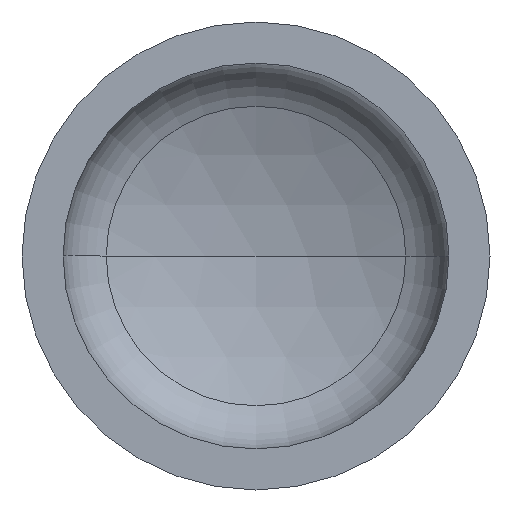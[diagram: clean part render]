
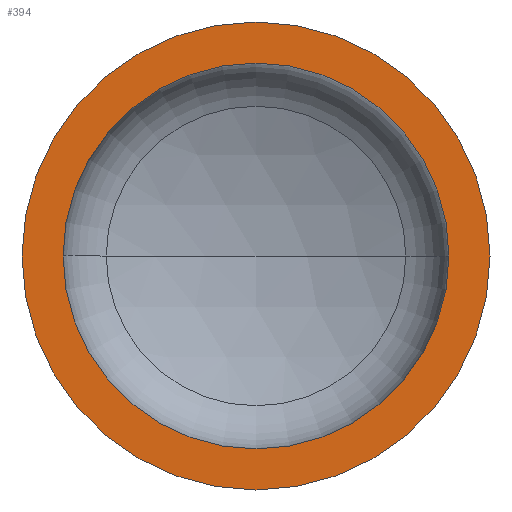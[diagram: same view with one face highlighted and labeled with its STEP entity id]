
A CAD part, front view. The second image highlights one B-rep face of the part: STEP entity #394.
In plain terms, the highlighted planar face has unit normal (0, -1, 0).
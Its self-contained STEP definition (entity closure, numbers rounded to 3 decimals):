
#16 = VERTEX_POINT ( 'NONE', #287 ) ;
#17 = EDGE_LOOP ( 'NONE', ( #119, #87 ) ) ;
#59 = AXIS2_PLACEMENT_3D ( 'NONE', #200, #309, #308 ) ;
#66 = AXIS2_PLACEMENT_3D ( 'NONE', #304, #303, #302 ) ;
#67 = ORIENTED_EDGE ( 'NONE', *, *, #399, .F. ) ;
#75 = EDGE_LOOP ( 'NONE', ( #245, #67 ) ) ;
#79 = AXIS2_PLACEMENT_3D ( 'NONE', #230, #227, #226 ) ;
#81 = EDGE_CURVE ( 'NONE', #16, #138, #169, .T. ) ;
#87 = ORIENTED_EDGE ( 'NONE', *, *, #97, .T. ) ;
#96 = CARTESIAN_POINT ( 'NONE',  ( -650., 0., 0. ) ) ;
#97 = EDGE_CURVE ( 'NONE', #138, #16, #133, .T. ) ;
#98 = EDGE_CURVE ( 'NONE', #176, #103, #396, .T. ) ;
#103 = VERTEX_POINT ( 'NONE', #220 ) ;
#119 = ORIENTED_EDGE ( 'NONE', *, *, #81, .T. ) ;
#129 = CARTESIAN_POINT ( 'NONE',  ( 0., 0., 0. ) ) ;
#133 = CIRCLE ( 'NONE', #66, 650. ) ;
#138 = VERTEX_POINT ( 'NONE', #210 ) ;
#150 = DIRECTION ( 'NONE',  ( 0., -1., 0. ) ) ;
#169 = CIRCLE ( 'NONE', #79, 650. ) ;
#176 = VERTEX_POINT ( 'NONE', #290 ) ;
#179 = DIRECTION ( 'NONE',  ( -1., 0., 0. ) ) ;
#200 = CARTESIAN_POINT ( 'NONE',  ( 0., 0., 0. ) ) ;
#210 = CARTESIAN_POINT ( 'NONE',  ( -650., 0., 0. ) ) ;
#217 = CIRCLE ( 'NONE', #397, 536. ) ;
#220 = CARTESIAN_POINT ( 'NONE',  ( -536., 0., 0. ) ) ;
#226 = DIRECTION ( 'NONE',  ( 1., 0., 0. ) ) ;
#227 = DIRECTION ( 'NONE',  ( 0., -1., 0. ) ) ;
#230 = CARTESIAN_POINT ( 'NONE',  ( 0., 0., 0. ) ) ;
#245 = ORIENTED_EDGE ( 'NONE', *, *, #98, .F. ) ;
#273 = FACE_BOUND ( 'NONE', #75, .T. ) ;
#285 = FACE_OUTER_BOUND ( 'NONE', #17, .T. ) ;
#287 = CARTESIAN_POINT ( 'NONE',  ( 650., 0., 0. ) ) ;
#290 = CARTESIAN_POINT ( 'NONE',  ( 536., 0., 0. ) ) ;
#292 = PLANE ( 'NONE',  #408 ) ;
#302 = DIRECTION ( 'NONE',  ( 1., 0., 0. ) ) ;
#303 = DIRECTION ( 'NONE',  ( 0., -1., 0. ) ) ;
#304 = CARTESIAN_POINT ( 'NONE',  ( 0., 0., 0. ) ) ;
#308 = DIRECTION ( 'NONE',  ( 1., 0., 0. ) ) ;
#309 = DIRECTION ( 'NONE',  ( 0., -1., 0. ) ) ;
#323 = DIRECTION ( 'NONE',  ( 0., 1., 0. ) ) ;
#389 = DIRECTION ( 'NONE',  ( 1., 0., 0. ) ) ;
#394 = ADVANCED_FACE ( 'NONE', ( #273, #285 ), #292, .F. ) ;
#396 = CIRCLE ( 'NONE', #59, 536. ) ;
#397 = AXIS2_PLACEMENT_3D ( 'NONE', #129, #150, #389 ) ;
#399 = EDGE_CURVE ( 'NONE', #103, #176, #217, .T. ) ;
#408 = AXIS2_PLACEMENT_3D ( 'NONE', #96, #323, #179 ) ;
